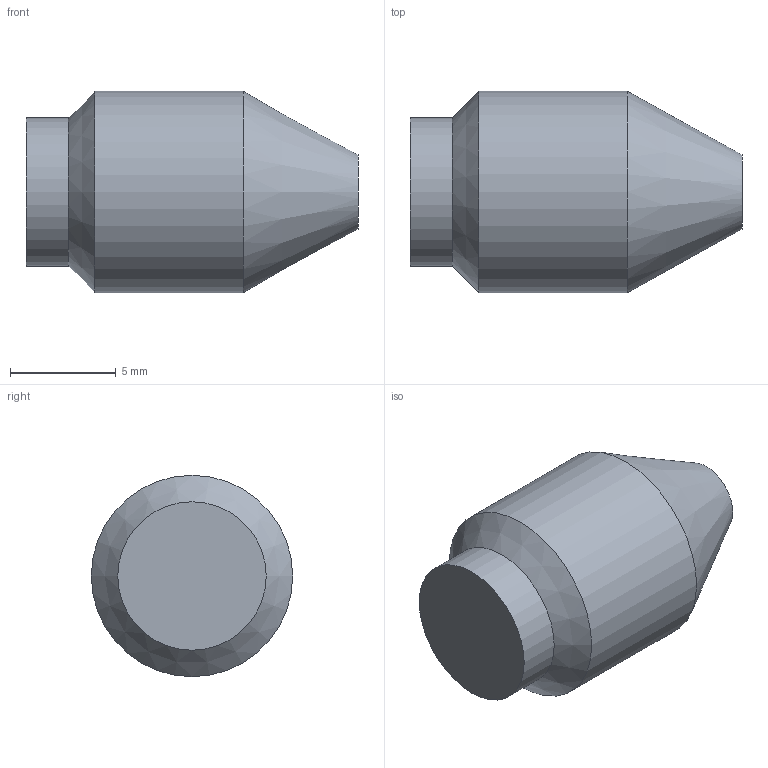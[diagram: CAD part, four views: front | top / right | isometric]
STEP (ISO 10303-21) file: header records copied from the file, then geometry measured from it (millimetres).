
FILE_DESCRIPTION(/* description */ (''),/* implementation_level */ '2;1');
FILE_NAME(/* name */ 'FIT.STP.1-4.stp',/* time_stamp */ '2026-07-06T21:38:56+02:00',/* author */ ('janos'),/* organization */ (''),/* preprocessor_version */ 'ST-DEVELOPER v19.2',/* originating_system */ 'Autodesk Inventor 2024',/* authorisation */ '');
FILE_SCHEMA (('AUTOMOTIVE_DESIGN { 1 0 10303 214 3 1 1 }'));
Length unit declared in the file: millimetre
Products named in the file (1): S.16.1-4
Bounding box: 15.66 x 9.5 x 9.5 mm (x, y, z)
Volume: 832.8 mm3; surface area: 473.2 mm2
Topology: 1 solids, 1 shells, 6 faces, 9 edges, 5 vertices
Faces by surface type: cylinder 2, cone 2, plane 2
Full cylindrical faces by diameter (mm): 7 x1, 9.5 x1
Entity records: 177 total; most frequent: DIRECTION 28, CARTESIAN_POINT 21, ORIENTED_EDGE 18, AXIS2_PLACEMENT_3D 12, EDGE_CURVE 9, FACE_OUTER_BOUND 6, EDGE_LOOP 6, ADVANCED_FACE 6
